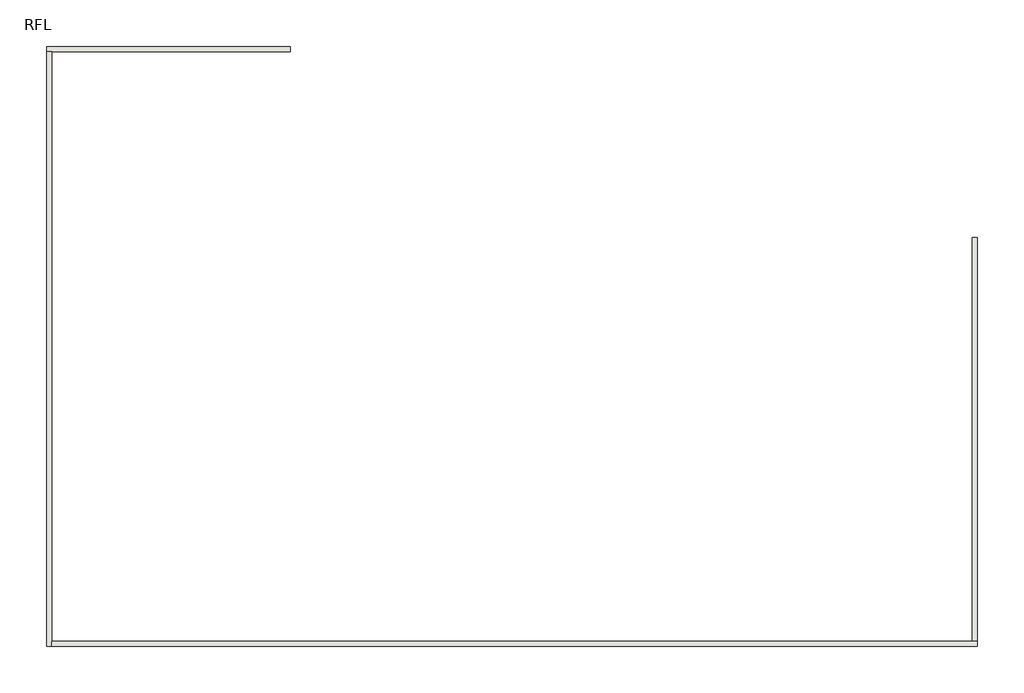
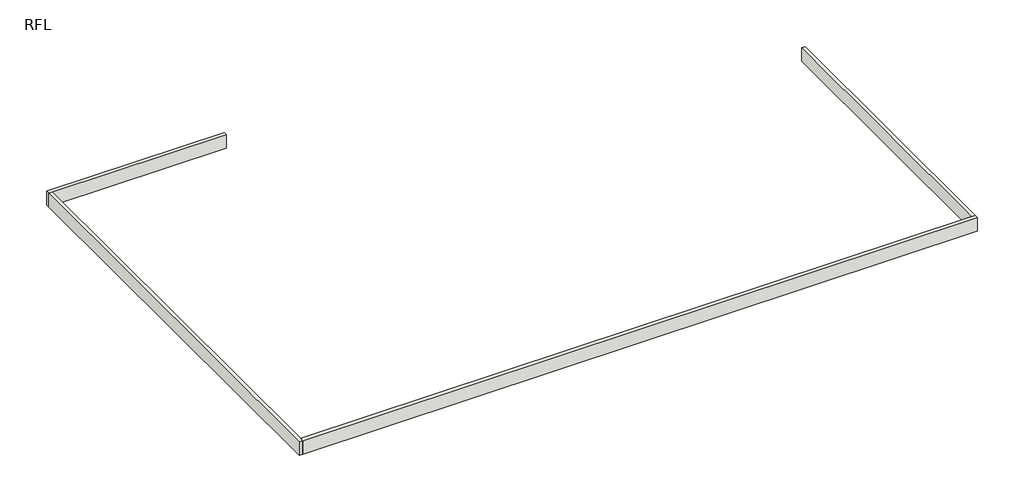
# One storey: 4 walls.
"""IFC4 building model written with IfcOpenShell, lengths in millimetres."""

from ifc_helpers import new_model, si_unit, frame, origin, place, context, project, spatial, polyline, outline, extrude, faceted_brep, element, save

model = new_model("IFC4")

# Units and contexts
model_context = context("Model", 3, world=origin())
ifc_project = project(units=[si_unit("LENGTHUNIT", "METRE", prefix="MILLI")], contexts=[model_context])

# Site, building, storey
site = spatial("IfcSite", under=ifc_project)
building = spatial("IfcBuilding", under=site)
storey = spatial("IfcBuildingStorey", under=building, Name="RFL", Elevation=6600.0)

# Walls
placement = place(None, origin())
element("IfcWall", 1, ObjectType="標準-150mm", at=placement, inside=storey, context=model_context, shape_type="Brep", body=[
    faceted_brep([(-19691.9943915, 10464.5472574, 6600.0), (-19541.9943915, 10464.5472574, 6600.0), (-12316.9943915, 10464.5472574, 6600.0), (-12316.9943915, 10464.5472574, 7200.0), (-19541.9943915, 10464.5472574, 7200.0), (-19691.9943915, 10464.5472574, 7200.0), (-19691.9943915, 10614.5472574, 6600.0), (-19691.9943915, 10614.5472574, 7200.0), (-12316.9943915, 10614.5472574, 7200.0), (-12316.9943915, 10614.5472574, 6600.0)], [[[0, 1, 2, 3, 4, 5]], [[6, 7, 8, 9]], [[2, 1, 0, 6, 9]], [[3, 2, 9, 8]], [[5, 4, 3, 8, 7]], [[0, 5, 7, 6]]]),
])
element("IfcWall", 2, ObjectType="標準-150mm", at=placement, inside=storey, context=model_context, shape_type="Brep", body=[
    faceted_brep([(-19541.9943915, -7535.4527426, 6600.0), (-19541.9943915, -7385.4527426, 6600.0), (-19541.9943915, 10464.5472574, 6600.0), (-19541.9943915, 10464.5472574, 7200.0), (-19541.9943915, -7385.4527426, 7200.0), (-19541.9943915, -7535.4527426, 7200.0), (-19691.9943915, -7535.4527426, 6600.0), (-19691.9943915, -7535.4527426, 7200.0), (-19691.9943915, 10464.5472574, 7200.0), (-19691.9943915, 10464.5472574, 6600.0)], [[[0, 1, 2, 3, 4, 5]], [[6, 7, 8, 9]], [[2, 1, 0, 6, 9]], [[5, 4, 3, 8, 7]], [[0, 5, 7, 6]], [[3, 2, 9, 8]]]),
])
element("IfcWall", 3, ObjectType="標準-150mm", at=placement, inside=storey, context=model_context, shape_type="Brep", body=[
    faceted_brep([(8458.0056085, -7385.4527426, 6600.0), (8308.0056085, -7385.4527426, 6600.0), (-19541.9943915, -7385.4527426, 6600.0), (-19541.9943915, -7385.4527426, 7200.0), (8308.0056085, -7385.4527426, 7200.0), (8458.0056085, -7385.4527426, 7200.0), (8458.0056085, -7535.4527426, 6600.0), (8458.0056085, -7535.4527426, 7200.0), (-19541.9943915, -7535.4527426, 7200.0), (-19541.9943915, -7535.4527426, 6600.0)], [[[0, 1, 2, 3, 4, 5]], [[6, 7, 8, 9]], [[2, 1, 0, 6, 9]], [[5, 4, 3, 8, 7]], [[0, 5, 7, 6]], [[3, 2, 9, 8]]]),
])
element("IfcWall", 4, ObjectType="標準-150mm", at=placement, inside=storey, context=model_context, shape_type="SweptSolid", body=[
    extrude(outline(polyline([(8308.0056085, -7385.4527426), (8308.0056085, 4839.5472574), (8458.0056085, 4839.5472574), (8458.0056085, -7385.4527426), (8308.0056085, -7385.4527426)])), frame((0.0, 0.0, 6600.0), z_axis=(0.0, 0.0, 1.0), x_axis=(1.0, 0.0, 0.0)), (0.0, 0.0, 1.0), 600.0),
])

save(model, "model.ifc")
